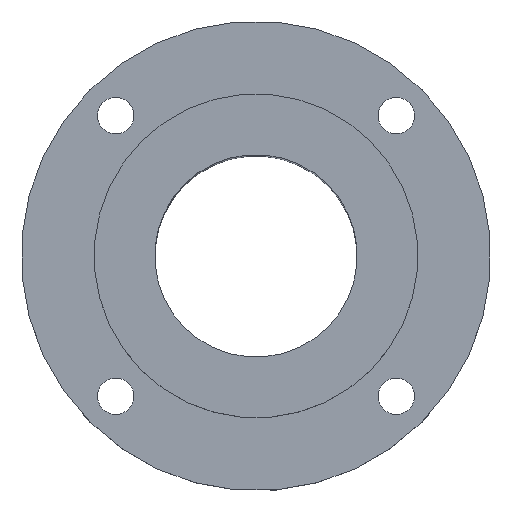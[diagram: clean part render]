
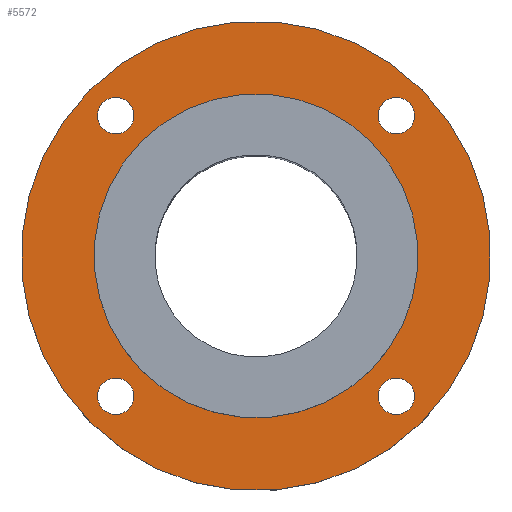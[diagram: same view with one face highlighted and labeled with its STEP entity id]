
A CAD part, top view. The second image highlights one B-rep face of the part: STEP entity #5572.
In plain terms, the highlighted planar face has unit normal (0, 0, 1).
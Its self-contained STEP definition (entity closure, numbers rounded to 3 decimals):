
#112=CIRCLE('',#5926,40.);
#116=CIRCLE('',#5934,58.);
#117=CIRCLE('',#5936,4.5);
#118=CIRCLE('',#5937,4.5);
#119=CIRCLE('',#5938,4.5);
#120=CIRCLE('',#5939,4.5);
#513=ORIENTED_EDGE('',*,*,#2109,.F.);
#514=ORIENTED_EDGE('',*,*,#2110,.F.);
#515=ORIENTED_EDGE('',*,*,#2111,.F.);
#516=ORIENTED_EDGE('',*,*,#2112,.F.);
#517=ORIENTED_EDGE('',*,*,#2104,.T.);
#518=ORIENTED_EDGE('',*,*,#2108,.T.);
#2104=EDGE_CURVE('',#2905,#2905,#112,.F.);
#2108=EDGE_CURVE('',#2909,#2909,#116,.T.);
#2109=EDGE_CURVE('',#2910,#2910,#117,.T.);
#2110=EDGE_CURVE('',#2911,#2911,#118,.T.);
#2111=EDGE_CURVE('',#2912,#2912,#119,.T.);
#2112=EDGE_CURVE('',#2913,#2913,#120,.T.);
#2905=VERTEX_POINT('',#8836);
#2909=VERTEX_POINT('',#8848);
#2910=VERTEX_POINT('',#8851);
#2911=VERTEX_POINT('',#8853);
#2912=VERTEX_POINT('',#8855);
#2913=VERTEX_POINT('',#8857);
#4558=EDGE_LOOP('',(#513));
#4559=EDGE_LOOP('',(#514));
#4560=EDGE_LOOP('',(#515));
#4561=EDGE_LOOP('',(#516));
#4562=EDGE_LOOP('',(#517));
#4563=EDGE_LOOP('',(#518));
#4965=FACE_BOUND('',#4558,.T.);
#4966=FACE_BOUND('',#4559,.T.);
#4967=FACE_BOUND('',#4560,.T.);
#4968=FACE_BOUND('',#4561,.T.);
#4969=FACE_BOUND('',#4562,.T.);
#4970=FACE_BOUND('',#4563,.T.);
#5315=PLANE('',#5935);
#5572=ADVANCED_FACE('',(#4965,#4966,#4967,#4968,#4969,#4970),#5315,.T.);
#5926=AXIS2_PLACEMENT_3D('',#8835,#6438,#6439);
#5934=AXIS2_PLACEMENT_3D('',#8847,#6454,#6455);
#5935=AXIS2_PLACEMENT_3D('',#8849,#6456,#6457);
#5936=AXIS2_PLACEMENT_3D('',#8850,#6458,#6459);
#5937=AXIS2_PLACEMENT_3D('',#8852,#6460,#6461);
#5938=AXIS2_PLACEMENT_3D('',#8854,#6462,#6463);
#5939=AXIS2_PLACEMENT_3D('',#8856,#6464,#6465);
#6438=DIRECTION('',(0.,0.,1.));
#6439=DIRECTION('',(0.707,-0.707,0.));
#6454=DIRECTION('',(0.,0.,1.));
#6455=DIRECTION('',(0.707,-0.707,0.));
#6456=DIRECTION('',(0.,0.,1.));
#6457=DIRECTION('',(0.707,-0.707,0.));
#6458=DIRECTION('',(0.,0.,1.));
#6459=DIRECTION('',(0.707,-0.707,0.));
#6460=DIRECTION('',(0.,0.,1.));
#6461=DIRECTION('',(0.707,-0.707,0.));
#6462=DIRECTION('',(0.,0.,1.));
#6463=DIRECTION('',(0.707,-0.707,0.));
#6464=DIRECTION('',(0.,0.,1.));
#6465=DIRECTION('',(0.707,-0.707,0.));
#8835=CARTESIAN_POINT('',(0.,0.,0.));
#8836=CARTESIAN_POINT('',(28.284,-28.284,0.));
#8847=CARTESIAN_POINT('',(0.,0.,0.));
#8848=CARTESIAN_POINT('',(41.012,-41.012,0.));
#8849=CARTESIAN_POINT('',(0.,0.,0.));
#8850=CARTESIAN_POINT('',(34.648,34.648,0.));
#8851=CARTESIAN_POINT('',(37.83,31.466,0.));
#8852=CARTESIAN_POINT('',(-34.648,34.648,0.));
#8853=CARTESIAN_POINT('',(-31.466,31.466,0.));
#8854=CARTESIAN_POINT('',(-34.648,-34.648,0.));
#8855=CARTESIAN_POINT('',(-31.466,-37.83,0.));
#8856=CARTESIAN_POINT('',(34.648,-34.648,0.));
#8857=CARTESIAN_POINT('',(37.83,-37.83,0.));
